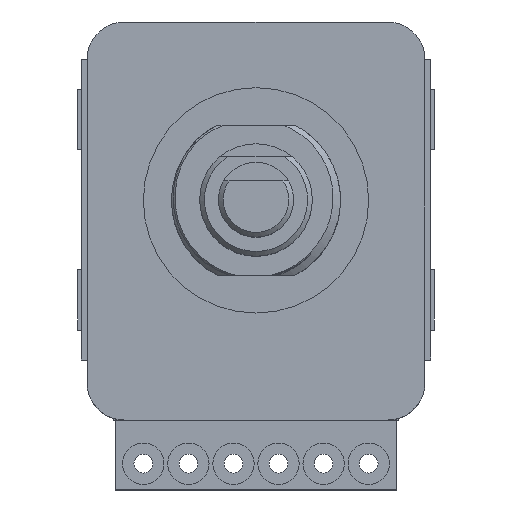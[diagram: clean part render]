
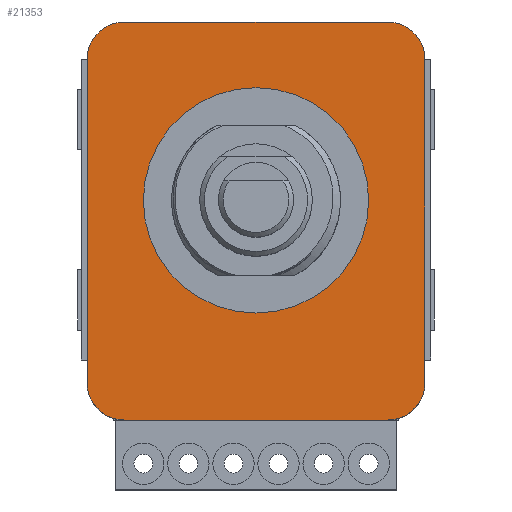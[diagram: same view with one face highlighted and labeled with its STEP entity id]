
A CAD part, top view. The second image highlights one B-rep face of the part: STEP entity #21353.
In plain terms, the highlighted planar face has unit normal (0, 0, 1).
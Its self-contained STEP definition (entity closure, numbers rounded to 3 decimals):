
#448 = EDGE_CURVE ( 'NONE', #13944, #19811, #17240, .T. ) ;
#1078 = EDGE_CURVE ( 'NONE', #3552, #1125, #7376, .T. ) ;
#1125 = VERTEX_POINT ( 'NONE', #5461 ) ;
#1510 = CARTESIAN_POINT ( 'NONE',  ( -5.871, 4.545, 13.219 ) ) ;
#1720 = CARTESIAN_POINT ( 'NONE',  ( -3.871, -16.655, 13.219 ) ) ;
#2057 = LINE ( 'NONE', #13175, #5536 ) ;
#2512 = CARTESIAN_POINT ( 'NONE',  ( -5.871, 4.545, 13.219 ) ) ;
#2524 = EDGE_CURVE ( 'NONE', #18491, #17587, #19248, .T. ) ;
#2911 = CARTESIAN_POINT ( 'NONE',  ( -3.871, 2.545, 13.219 ) ) ;
#3520 = CIRCLE ( 'NONE', #12915, 2. ) ;
#3552 = VERTEX_POINT ( 'NONE', #3690 ) ;
#3690 = CARTESIAN_POINT ( 'NONE',  ( 10.129, 4.545, 13.219 ) ) ;
#4215 = DIRECTION ( 'NONE',  ( 1., 0., 0. ) ) ;
#4511 = DIRECTION ( 'NONE',  ( 1., 0., 0. ) ) ;
#5146 = DIRECTION ( 'NONE',  ( 1., 0., 0. ) ) ;
#5461 = CARTESIAN_POINT ( 'NONE',  ( -3.871, 4.545, 13.219 ) ) ;
#5536 = VECTOR ( 'NONE', #21077, 1000. ) ;
#5668 = AXIS2_PLACEMENT_3D ( 'NONE', #23005, #24798, #5146 ) ;
#6134 = CARTESIAN_POINT ( 'NONE',  ( 3.129, -4.955, 13.219 ) ) ;
#6437 = DIRECTION ( 'NONE',  ( 0., 0., 1. ) ) ;
#6480 = LINE ( 'NONE', #2512, #16655 ) ;
#6761 = CARTESIAN_POINT ( 'NONE',  ( 12.129, -14.655, 13.219 ) ) ;
#7108 = ORIENTED_EDGE ( 'NONE', *, *, #24627, .T. ) ;
#7136 = PLANE ( 'NONE',  #21962 ) ;
#7258 = CARTESIAN_POINT ( 'NONE',  ( -5.871, -16.655, 13.219 ) ) ;
#7376 = LINE ( 'NONE', #1510, #8677 ) ;
#7518 = EDGE_CURVE ( 'NONE', #21250, #13944, #3520, .T. ) ;
#7620 = EDGE_CURVE ( 'NONE', #1125, #11719, #16972, .T. ) ;
#8272 = DIRECTION ( 'NONE',  ( 0., 0., 1. ) ) ;
#8429 = ORIENTED_EDGE ( 'NONE', *, *, #1078, .T. ) ;
#8677 = VECTOR ( 'NONE', #15419, 1000. ) ;
#9180 = CARTESIAN_POINT ( 'NONE',  ( -5.871, 2.545, 13.219 ) ) ;
#10266 = CARTESIAN_POINT ( 'NONE',  ( 10.129, 2.545, 13.219 ) ) ;
#10322 = CARTESIAN_POINT ( 'NONE',  ( -3.871, -14.655, 13.219 ) ) ;
#10509 = CARTESIAN_POINT ( 'NONE',  ( 10.129, -14.655, 13.219 ) ) ;
#10592 = EDGE_CURVE ( 'NONE', #14064, #3552, #17022, .T. ) ;
#10705 = DIRECTION ( 'NONE',  ( 0., 0., 1. ) ) ;
#11102 = CARTESIAN_POINT ( 'NONE',  ( -5.871, -14.655, 13.219 ) ) ;
#11433 = VERTEX_POINT ( 'NONE', #6761 ) ;
#11626 = DIRECTION ( 'NONE',  ( 1., 0., 0. ) ) ;
#11719 = VERTEX_POINT ( 'NONE', #9180 ) ;
#12229 = ORIENTED_EDGE ( 'NONE', *, *, #2524, .F. ) ;
#12504 = DIRECTION ( 'NONE',  ( 0., 0., 1. ) ) ;
#12868 = EDGE_LOOP ( 'NONE', ( #22756, #12229 ) ) ;
#12915 = AXIS2_PLACEMENT_3D ( 'NONE', #10322, #8272, #18101 ) ;
#13006 = CIRCLE ( 'NONE', #13398, 2. ) ;
#13009 = DIRECTION ( 'NONE',  ( 1., 0., 0. ) ) ;
#13175 = CARTESIAN_POINT ( 'NONE',  ( 12.129, 4.545, 13.219 ) ) ;
#13398 = AXIS2_PLACEMENT_3D ( 'NONE', #10509, #14340, #4511 ) ;
#13424 = CARTESIAN_POINT ( 'NONE',  ( -5.871, -16.655, 13.219 ) ) ;
#13944 = VERTEX_POINT ( 'NONE', #1720 ) ;
#14064 = VERTEX_POINT ( 'NONE', #24941 ) ;
#14340 = DIRECTION ( 'NONE',  ( 0., 0., 1. ) ) ;
#14384 = VECTOR ( 'NONE', #11626, 1000. ) ;
#15053 = DIRECTION ( 'NONE',  ( 0., 0., 1. ) ) ;
#15419 = DIRECTION ( 'NONE',  ( -1., 0., 0. ) ) ;
#15809 = ORIENTED_EDGE ( 'NONE', *, *, #18847, .T. ) ;
#15884 = EDGE_CURVE ( 'NONE', #19811, #11433, #13006, .T. ) ;
#16168 = CARTESIAN_POINT ( 'NONE',  ( -2.871, -4.955, 13.219 ) ) ;
#16254 = EDGE_CURVE ( 'NONE', #17587, #18491, #22377, .T. ) ;
#16536 = ORIENTED_EDGE ( 'NONE', *, *, #7620, .T. ) ;
#16655 = VECTOR ( 'NONE', #18089, 1000. ) ;
#16972 = CIRCLE ( 'NONE', #20221, 2. ) ;
#17022 = CIRCLE ( 'NONE', #20286, 2. ) ;
#17125 = CARTESIAN_POINT ( 'NONE',  ( 9.129, -4.955, 13.219 ) ) ;
#17240 = LINE ( 'NONE', #13424, #14384 ) ;
#17587 = VERTEX_POINT ( 'NONE', #16168 ) ;
#18047 = DIRECTION ( 'NONE',  ( 1., 0., 0. ) ) ;
#18089 = DIRECTION ( 'NONE',  ( 0., -1., 0. ) ) ;
#18101 = DIRECTION ( 'NONE',  ( 1., 0., 0. ) ) ;
#18491 = VERTEX_POINT ( 'NONE', #17125 ) ;
#18847 = EDGE_CURVE ( 'NONE', #11719, #21250, #6480, .T. ) ;
#19248 = CIRCLE ( 'NONE', #21738, 6. ) ;
#19811 = VERTEX_POINT ( 'NONE', #24357 ) ;
#20156 = EDGE_LOOP ( 'NONE', ( #15809, #20700, #24607, #21720, #7108, #22420, #8429, #16536 ) ) ;
#20221 = AXIS2_PLACEMENT_3D ( 'NONE', #2911, #10705, #13009 ) ;
#20286 = AXIS2_PLACEMENT_3D ( 'NONE', #10266, #6437, #18047 ) ;
#20700 = ORIENTED_EDGE ( 'NONE', *, *, #7518, .T. ) ;
#21077 = DIRECTION ( 'NONE',  ( 0., 1., 0. ) ) ;
#21250 = VERTEX_POINT ( 'NONE', #11102 ) ;
#21353 = ADVANCED_FACE ( 'NONE', ( #24623, #24742 ), #7136, .T. ) ;
#21720 = ORIENTED_EDGE ( 'NONE', *, *, #15884, .T. ) ;
#21738 = AXIS2_PLACEMENT_3D ( 'NONE', #6134, #12504, #4215 ) ;
#21962 = AXIS2_PLACEMENT_3D ( 'NONE', #7258, #15053, #22328 ) ;
#22328 = DIRECTION ( 'NONE',  ( 1., 0., 0. ) ) ;
#22377 = CIRCLE ( 'NONE', #5668, 6. ) ;
#22420 = ORIENTED_EDGE ( 'NONE', *, *, #10592, .T. ) ;
#22756 = ORIENTED_EDGE ( 'NONE', *, *, #16254, .F. ) ;
#23005 = CARTESIAN_POINT ( 'NONE',  ( 3.129, -4.955, 13.219 ) ) ;
#24357 = CARTESIAN_POINT ( 'NONE',  ( 10.129, -16.655, 13.219 ) ) ;
#24607 = ORIENTED_EDGE ( 'NONE', *, *, #448, .T. ) ;
#24623 = FACE_BOUND ( 'NONE', #12868, .T. ) ;
#24627 = EDGE_CURVE ( 'NONE', #11433, #14064, #2057, .T. ) ;
#24742 = FACE_OUTER_BOUND ( 'NONE', #20156, .T. ) ;
#24798 = DIRECTION ( 'NONE',  ( 0., 0., 1. ) ) ;
#24941 = CARTESIAN_POINT ( 'NONE',  ( 12.129, 2.545, 13.219 ) ) ;
